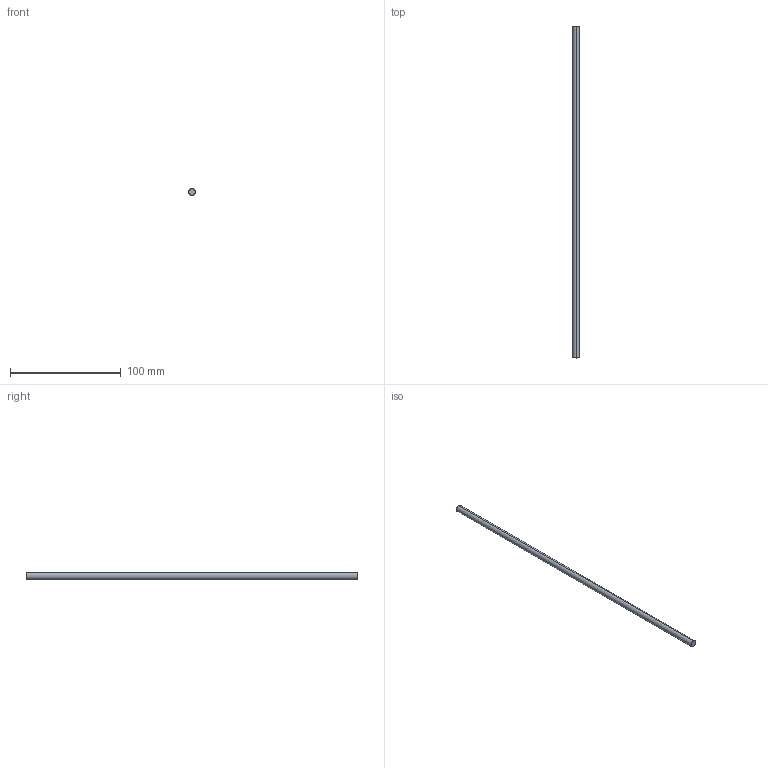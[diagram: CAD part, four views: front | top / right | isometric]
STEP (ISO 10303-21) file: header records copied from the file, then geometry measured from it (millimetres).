
FILE_DESCRIPTION (( 'STEP AP203' ), '1' );
FILE_NAME ('2100-0006-0300.STEP', '2018-02-12T21:30:03', ( '' ), ( '' ), 'SwSTEP 2.0', 'SolidWorks 2016', '' );
FILE_SCHEMA (( 'CONFIG_CONTROL_DESIGN' ));
Length unit declared in the file: millimetre
Products named in the file (1): 2100-0006-0300
Bounding box: 6 x 300 x 6 mm (x, y, z)
Volume: 8482 mm3; surface area: 5708.6 mm2
Topology: 1 solids, 1 shells, 8 faces, 14 edges, 8 vertices
Faces by surface type: cone 4, cylinder 2, plane 2
Entity records: 271 total; most frequent: DIRECTION 40, CARTESIAN_POINT 31, ORIENTED_EDGE 28, AXIS2_PLACEMENT_3D 17, EDGE_CURVE 14, ADVANCED_FACE 8, EDGE_LOOP 8, CIRCLE 8
